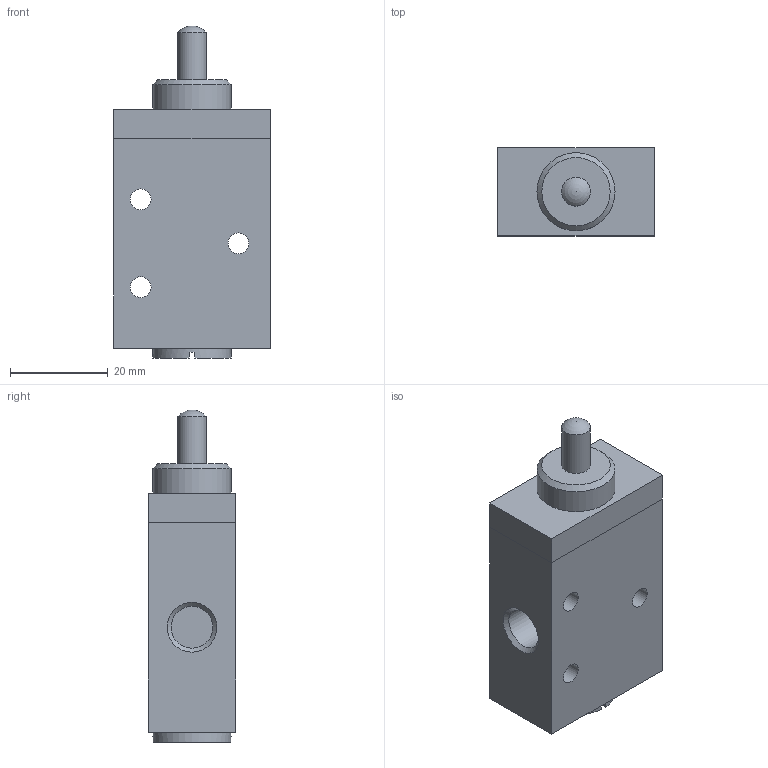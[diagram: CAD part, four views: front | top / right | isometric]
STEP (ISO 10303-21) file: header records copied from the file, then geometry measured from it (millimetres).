
FILE_DESCRIPTION((''),'2;1');
FILE_NAME('I:\Area Tecnica\Documenti\A-Roberto\_Inventor\Rev.Librerie\700\NEW\718_32_0_1.stp','2008-02-25T14:13:03',('rivolro1'),(''),'Autodesk Inventor 2008','Autodesk Inventor 2008','');
FILE_SCHEMA(('AUTOMOTIVE_DESIGN { 1 0 10303 214 1 1 1 1 }'));
Length unit declared in the file: millimetre
Products named in the file (1): 718_32_0_1
Bounding box: 32 x 18 x 68 mm (x, y, z)
Volume: 27891.1 mm3; surface area: 7888.9 mm2
Topology: 1 solids, 1 shells, 34 faces, 73 edges, 47 vertices
Faces by surface type: plane 17, bspline 9, cylinder 6, cone 1, sphere 1
Full cylindrical faces by diameter (mm): 4.25 x3, 5.9 x1, 16 x2
Entity records: 984 total; most frequent: CARTESIAN_POINT 248, DIRECTION 134, ORIENTED_EDGE 114, EDGE_LOOP 60, EDGE_CURVE 57, AXIS2_PLACEMENT_3D 51, VERTEX_POINT 45, FACE_OUTER_BOUND 34
